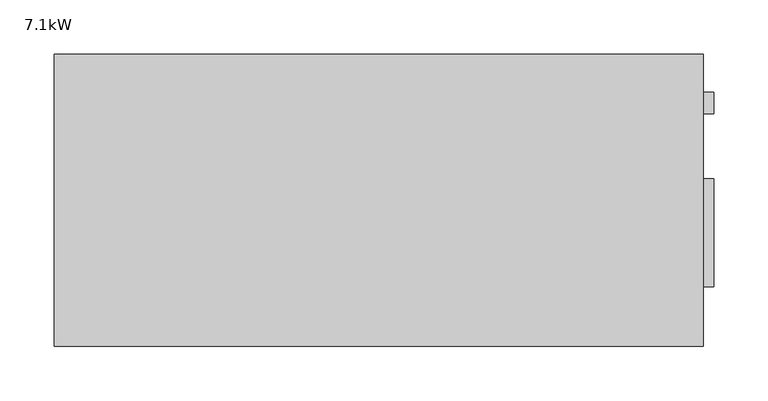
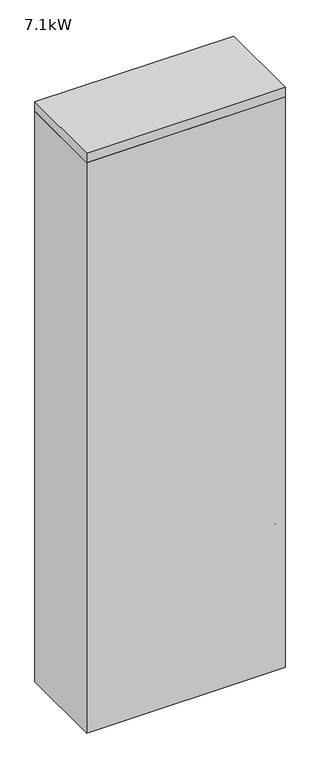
"""IFC4 building model written with IfcOpenShell, lengths in millimetres: unitary equipment geometry, 07052_PAC-FRV(J)_屋内機_床置(露出)立形(直吹) : 7.1kW."""

from ifc_helpers import new_model, si_unit, point, frame, frame_2d, origin, place, context, project, spatial, polyline, circle_curve, trimmed, segment, composite_curve, outline, extrude, source, transform, mapped, element, save


def unitary_equipment_7_1kw_d5a9fbea(model_context):
    return source(origin(), model_context, "Body", "SweptSolid", [
        extrude(outline(composite_curve([segment(trimmed(circle_curve(frame_2d((-165.0, 225.0)), 10.0), [point((-175.0, 225.0))], [point((-155.0, 225.0))], False, "CARTESIAN"), True, "CONTINUOUS"), segment(trimmed(circle_curve(frame_2d((-165.0, 225.0)), 10.0), [point((-155.0, 225.0))], [point((-175.0, 225.0))], False, "CARTESIAN"), True, "CONTINUOUS")], self_intersect=False)), frame((300.0, 0.0, 0.0), z_axis=(1.0, 0.0, 0.0), x_axis=(0.0, 1.0, 0.0)), (0.0, 0.0, 1.0), 5.0),
        extrude(outline(composite_curve([segment(trimmed(circle_curve(frame_2d((-165.0, 595.0)), 50.0), [point((-215.0, 595.0))], [point((-115.0, 595.0))], False, "CARTESIAN"), True, "CONTINUOUS"), segment(trimmed(circle_curve(frame_2d((-165.0, 595.0)), 50.0), [point((-115.0, 595.0))], [point((-215.0, 595.0))], False, "CARTESIAN"), True, "CONTINUOUS")], self_intersect=False)), frame((300.0, 0.0, 0.0), z_axis=(1.0, 0.0, 0.0), x_axis=(0.0, 1.0, 0.0)), (0.0, 0.0, 1.0), 10.0),
        extrude(outline(composite_curve([segment(trimmed(circle_curve(frame_2d((-165.0906138, 390.8996561)), 7.5), [point((-172.5906138, 390.8996561))], [point((-157.5906138, 390.8996561))], False, "CARTESIAN"), True, "CONTINUOUS"), segment(trimmed(circle_curve(frame_2d((-165.0906138, 390.8996561)), 7.5), [point((-157.5906138, 390.8996561))], [point((-172.5906138, 390.8996561))], False, "CARTESIAN"), True, "CONTINUOUS")], self_intersect=False)), frame((300.0, 0.0, 0.0), z_axis=(1.0, 0.0, 0.0), x_axis=(0.0, 1.0, 0.0)), (0.0, 0.0, 1.0), 10.0),
        extrude(outline(composite_curve([segment(trimmed(circle_curve(frame_2d((-45.0, 375.0)), 10.0), [point((-55.0, 375.0))], [point((-35.0, 375.0))], False, "CARTESIAN"), True, "CONTINUOUS"), segment(trimmed(circle_curve(frame_2d((-45.0, 375.0)), 10.0), [point((-35.0, 375.0))], [point((-55.0, 375.0))], False, "CARTESIAN"), True, "CONTINUOUS")], self_intersect=False)), frame((300.0, 0.0, 0.0), z_axis=(1.0, 0.0, 0.0), x_axis=(0.0, 1.0, 0.0)), (0.0, 0.0, 1.0), 10.0),
        extrude(outline(polyline([(300.0, 0.0), (300.0, -270.0), (-300.0, -270.0), (-300.0, 0.0), (300.0, 0.0)])), frame((0.0, 0.0, 1970.0), z_axis=(0.0, 0.0, 1.0), x_axis=(1.0, 0.0, 0.0)), (0.0, 0.0, 1.0), 30.0),
        extrude(outline(polyline([(300.0, -270.0), (-300.0, -270.0), (-300.0, 0.0), (300.0, 0.0), (300.0, -270.0)])), frame((0.0, 0.0, 150.0), z_axis=(0.0, 0.0, 1.0), x_axis=(1.0, 0.0, 0.0)), (0.0, 0.0, 1.0), 1820.0),
    ])


if __name__ == "__main__":
    model = new_model("IFC4")
    model_context = context("Model", 3, world=origin())
    ifc_project = project(units=[si_unit("LENGTHUNIT", "METRE", prefix="MILLI")], contexts=[model_context])
    site = spatial("IfcSite", under=ifc_project)
    building = spatial("IfcBuilding", under=site)
    placement = place(None, origin())
    unitary_equipment_7_1kw_shape = unitary_equipment_7_1kw_d5a9fbea(model_context)
    element("IfcUnitaryEquipment", 1, ObjectType="07052_PAC-FRV(J)_屋内機_床置(露出)立形(直吹) : 7.1kW", at=placement, inside=building, context=model_context, shape_type="MappedRepresentation", body=[
        mapped(unitary_equipment_7_1kw_shape, transform((0.0, 0.0, 0.0), x_axis=(1.0, 0.0, 0.0), y_axis=(0.0, 1.0, 0.0), z_axis=(0.0, 0.0, 1.0))),
    ])
    save(model, "model.ifc")
